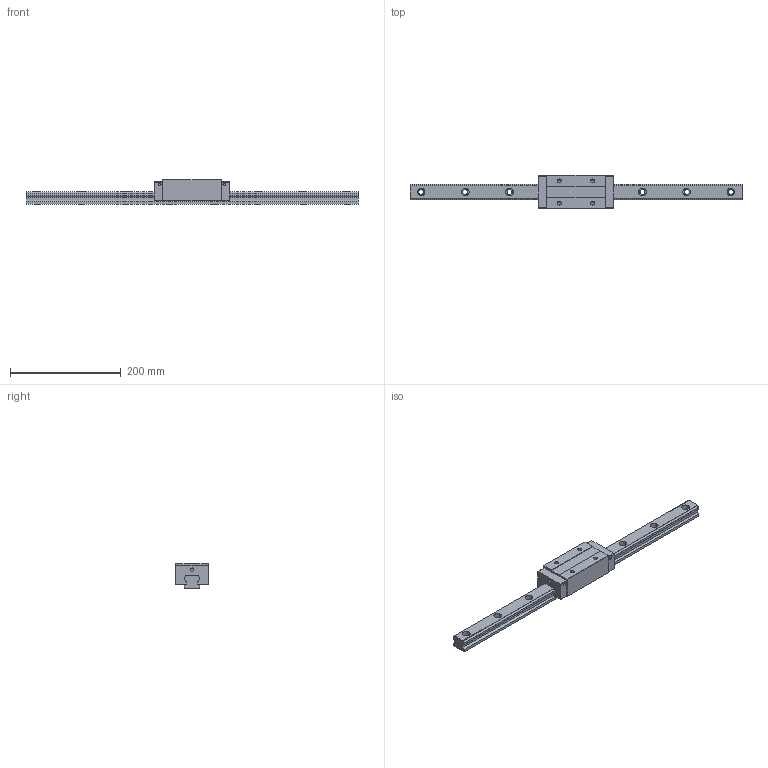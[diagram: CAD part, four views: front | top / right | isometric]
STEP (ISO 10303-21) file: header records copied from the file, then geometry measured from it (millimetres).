
FILE_DESCRIPTION (( 'STEP AP203' ), '1' );
FILE_NAME ('TRH30VE-SU.STEP', '2024-06-26T04:03:39', ( '' ), ( '' ), 'SwSTEP 2.0', 'SolidWorks 2022', '' );
FILE_SCHEMA (( 'CONFIG_CONTROL_DESIGN' ));
Length unit declared in the file: millimetre
Products named in the file (1): TRH30VE-SU
Bounding box: 600 x 60 x 45 mm (x, y, z)
Volume: 568557.6 mm3; surface area: 106833.5 mm2
Topology: 2 solids, 2 shells, 186 faces, 488 edges, 316 vertices
Faces by surface type: cylinder 88, plane 82, cone 16
Entity records: 5819 total; most frequent: DIRECTION 1038, CARTESIAN_POINT 983, ORIENTED_EDGE 960, EDGE_CURVE 480, AXIS2_PLACEMENT_3D 371, VERTEX_POINT 316, VECTOR 296, LINE 296
